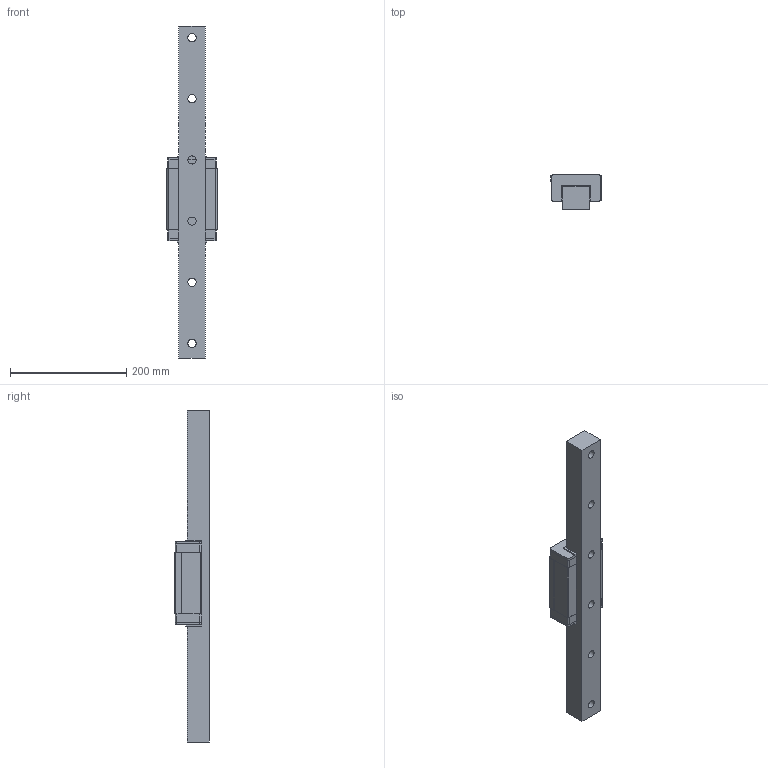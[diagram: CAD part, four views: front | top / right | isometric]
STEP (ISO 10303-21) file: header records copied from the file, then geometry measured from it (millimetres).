
FILE_DESCRIPTION((''),'2;1');
FILE_NAME('E:\PDF郪磁芞\DFS-B\DFS45B.STP','2018-01-31T12:44:48',(''),(''),'STEP Write','Mastercam V9 ... CNC Software, Inc.','');
FILE_SCHEMA(('CONFIG_CONTROL_DESIGN'));
Length unit declared in the file: millimetre
Bounding box: 86 x 60 x 570 mm (x, y, z)
Volume: 1321626 mm3; surface area: 181567.6 mm2
Topology: 6 solids, 6 shells, 116 faces, 547 edges, 702 vertices
Faces by surface type: plane 84, cylinder 32
Full cylindrical faces by diameter (mm): 9.1 x4, 14 x6, 20 x6
Entity records: 5056 total; most frequent: CARTESIAN_POINT 1139, DIRECTION 882, ORIENTED_EDGE 532, VECTOR 380, LINE 380, EDGE_CURVE 266, AXIS2_PLACEMENT_3D 251, TRIMMED_CURVE 249
